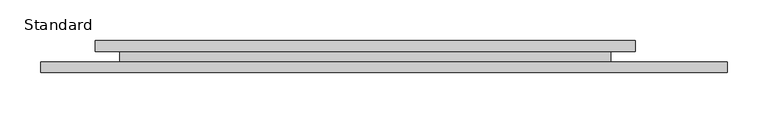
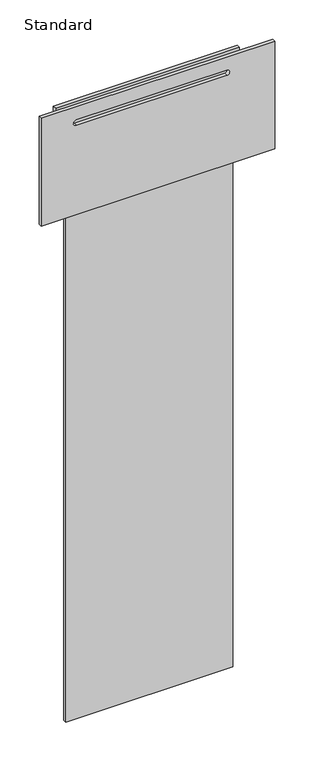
"""IFC4 building model written with IfcOpenShell, lengths in millimetres: furniture geometry, X_Partition-Compact Laminate-Duracube-Door : Standard."""

from ifc_helpers import new_model, si_unit, point, frame, frame_2d, origin, place, context, project, spatial, polyline, circle_curve, trimmed, segment, composite_curve, outline, extrude, source, transform, mapped, element, save


def standard_35fc4c4e(model_context):
    return source(origin(), model_context, "Body", "SweptSolid", [
        extrude(outline(polyline([(2374.0, 487.2003264), (2374.0, -351.7996736), (1965.0, -351.7996736), (1965.0, 487.2003264), (2374.0, 487.2003264)]), holes=[composite_curve([segment(polyline([(2324.0, -225.2996736), (2324.0, 314.7003264)]), True, "CONTINUOUS"), segment(trimmed(circle_curve(frame_2d((2314.0, 314.7003264)), 10.0), [point((2324.0, 314.7003264))], [point((2304.0, 314.7003264))], True, "CARTESIAN"), True, "CONTINUOUS"), segment(polyline([(2304.0, 314.7003264), (2304.0, -225.2996736)]), True, "CONTINUOUS"), segment(trimmed(circle_curve(frame_2d((2314.0, -225.2996736)), 10.0), [point((2304.0, -225.2996736))], [point((2324.0, -225.2996736))], True, "CARTESIAN"), True, "CONTINUOUS")], self_intersect=False)]), frame((0.0, -26.0, 0.0), z_axis=(0.0, 1.0, 0.0), x_axis=(0.0, 0.0, 1.0)), (0.0, 0.0, 1.0), 13.0),
        extrude(outline(polyline([(374.7003264, 13.0), (374.7003264, 0.0), (-285.2996736, 0.0), (-285.2996736, 13.0), (374.7003264, 13.0)])), frame((0.0, 0.0, 2025.0), z_axis=(0.0, 0.0, 1.0), x_axis=(1.0, 0.0, 0.0)), (0.0, 0.0, 1.0), 349.0),
        extrude(outline(polyline([(344.7003264, 0.0), (344.7003264, -13.0), (-255.2996736, -13.0), (-255.2996736, 0.0), (344.7003264, 0.0)])), frame((0.0, 0.0, 40.0), z_axis=(0.0, 0.0, 1.0), x_axis=(1.0, 0.0, 0.0)), (0.0, 0.0, 1.0), 1945.0),
    ])


if __name__ == "__main__":
    model = new_model("IFC4")
    model_context = context("Model", 3, world=origin())
    ifc_project = project(units=[si_unit("LENGTHUNIT", "METRE", prefix="MILLI")], contexts=[model_context])
    site = spatial("IfcSite", under=ifc_project)
    building = spatial("IfcBuilding", under=site)
    placement = place(None, origin())
    standard_shape = standard_35fc4c4e(model_context)
    element("IfcFurniture", 1, ObjectType="X_Partition-Compact Laminate-Duracube-Door : Standard", at=placement, inside=building, context=model_context, shape_type="MappedRepresentation", body=[
        mapped(standard_shape, transform((0.0, 0.0, 0.0), x_axis=(1.0, 0.0, 0.0), y_axis=(0.0, 1.0, 0.0), z_axis=(0.0, 0.0, 1.0))),
    ])
    save(model, "model.ifc")
